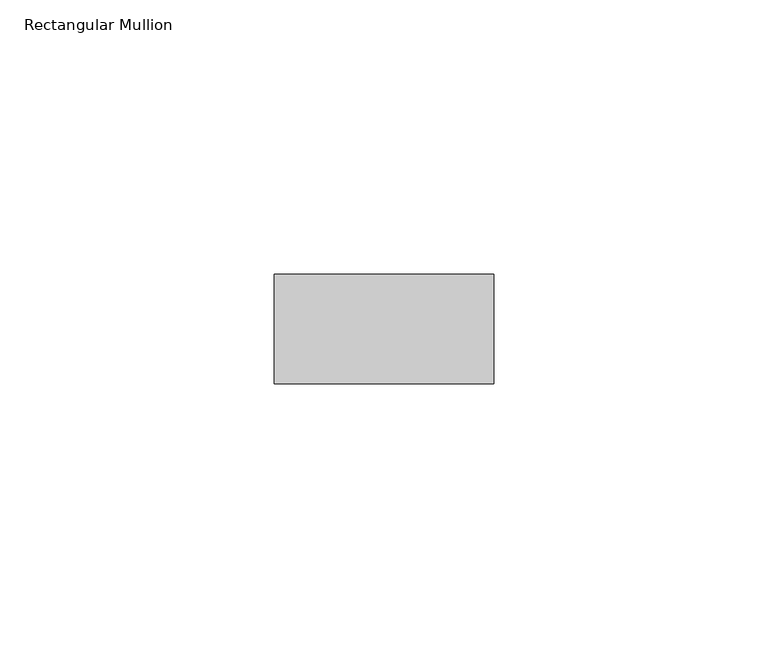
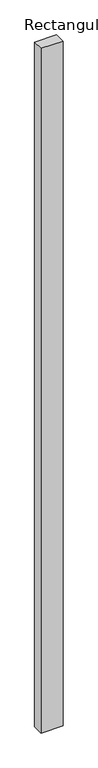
"""IFC4 building model written with IfcOpenShell, lengths in millimetres: member geometry, Rectangular Mullion : RIPA 4x2 cm."""

from ifc_helpers import new_model, si_unit, frame, origin, place, context, project, spatial, polyline, outline, extrude, source, transform, mapped, element, save


def rectangular_mullion_fa2f633c(model_context):
    return source(origin(), model_context, "Body", "SweptSolid", [
        extrude(outline(polyline([(20.0, 0.0), (20.0, -20.0), (-20.0, -20.0), (-20.0, 0.0), (20.0, 0.0)])), frame((0.0, 0.0, -1322.7308792), z_axis=(0.0, 0.0, 1.0), x_axis=(1.0, 0.0, 0.0)), (0.0, 0.0, 1.0), 1322.7308792),
    ])


if __name__ == "__main__":
    model = new_model("IFC4")
    model_context = context("Model", 3, world=origin())
    ifc_project = project(units=[si_unit("LENGTHUNIT", "METRE", prefix="MILLI")], contexts=[model_context])
    site = spatial("IfcSite", under=ifc_project)
    building = spatial("IfcBuilding", under=site)
    placement = place(None, origin())
    rectangular_mullion_shape = rectangular_mullion_fa2f633c(model_context)
    element("IfcMember", 1, ObjectType="Rectangular Mullion : RIPA 4x2 cm", at=placement, inside=building, context=model_context, shape_type="MappedRepresentation", body=[
        mapped(rectangular_mullion_shape, transform((0.0, 0.0, 0.0), x_axis=(1.0, 0.0, 0.0), y_axis=(0.0, 1.0, 0.0), z_axis=(0.0, 0.0, 1.0))),
    ])
    save(model, "model.ifc")
